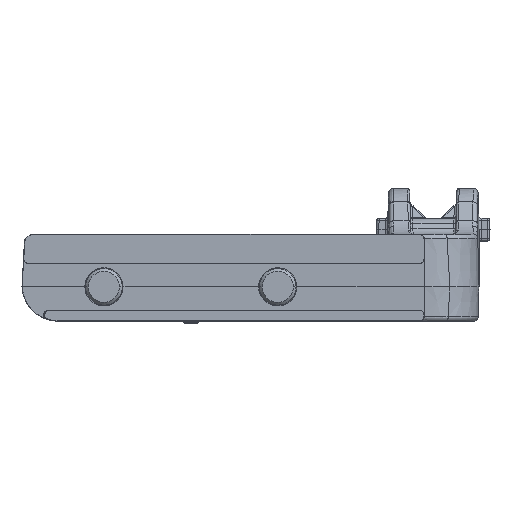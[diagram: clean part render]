
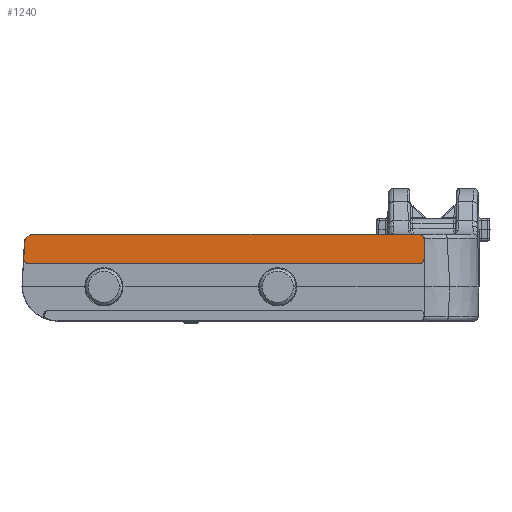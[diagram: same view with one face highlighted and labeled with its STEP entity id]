
A CAD part, front view. The second image highlights one B-rep face of the part: STEP entity #1240.
In plain terms, the highlighted planar face has unit normal (0, -1, 0).
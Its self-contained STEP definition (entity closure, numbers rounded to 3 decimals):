
#45 = AXIS2_PLACEMENT_3D ( 'NONE', #19169, #19170, #19171 ) ;
#183 = AXIS2_PLACEMENT_3D ( 'NONE', #19965, #19971, #19972 ) ;
#436 = EDGE_CURVE ( 'NONE', #9960, #3162, #25402, .T. ) ;
#440 = EDGE_CURVE ( 'NONE', #3162, #3159, #25408, .T. ) ;
#1240 = ADVANCED_FACE ( 'NONE', ( #17460 ), #19969, .F. ) ;
#2119 = LINE ( 'NONE', #5395, #2128 ) ;
#2128 = VECTOR ( 'NONE', #5402, 1000. ) ;
#3159 = VERTEX_POINT ( 'NONE', #15903 ) ;
#3162 = VERTEX_POINT ( 'NONE', #15906 ) ;
#3441 = EDGE_CURVE ( 'NONE', #9952, #10024, #15444, .T. ) ;
#3442 = EDGE_CURVE ( 'NONE', #3159, #10026, #15449, .T. ) ;
#4215 = CARTESIAN_POINT ( 'NONE',  ( 15.987, 0., -1.038 ) ) ;
#4216 = CARTESIAN_POINT ( 'NONE',  ( 15.987, 0., -0.745 ) ) ;
#4221 = CARTESIAN_POINT ( 'NONE',  ( 15.78, 0., -0.538 ) ) ;
#4222 = CARTESIAN_POINT ( 'NONE',  ( 15.488, 0., -0.538 ) ) ;
#5385 = CARTESIAN_POINT ( 'NONE',  ( -27.751, 0., -3.149 ) ) ;
#5386 = CARTESIAN_POINT ( 'NONE',  ( -27.767, 0., -3.454 ) ) ;
#5391 = CARTESIAN_POINT ( 'NONE',  ( -27.557, 0., -3.675 ) ) ;
#5392 = CARTESIAN_POINT ( 'NONE',  ( -27.252, 0., -3.675 ) ) ;
#5395 = CARTESIAN_POINT ( 'NONE',  ( -38.703, 0., -3.675 ) ) ;
#5402 = DIRECTION ( 'NONE',  ( 1., 0., 0. ) ) ;
#5407 = CARTESIAN_POINT ( 'NONE',  ( 15.78, 0., -3.675 ) ) ;
#5408 = CARTESIAN_POINT ( 'NONE',  ( 15.488, 0., -3.675 ) ) ;
#5413 = CARTESIAN_POINT ( 'NONE',  ( 15.987, 0., -3.468 ) ) ;
#5414 = CARTESIAN_POINT ( 'NONE',  ( 15.987, 0., -3.175 ) ) ;
#5685 =( BOUNDED_CURVE ( )  B_SPLINE_CURVE ( 3, ( #4215, #4216, #4221, #4222 ),
 .UNSPECIFIED., .F., .F. ) 
 B_SPLINE_CURVE_WITH_KNOTS ( ( 4, 4 ),
 ( 5.498, 7.068 ),
 .UNSPECIFIED. ) 
 CURVE ( )  GEOMETRIC_REPRESENTATION_ITEM ( )  RATIONAL_B_SPLINE_CURVE ( ( 1., 0.805, 0.805, 1. ) ) 
 REPRESENTATION_ITEM ( '' )  );
#9167 = EDGE_LOOP ( 'NONE', ( #9552, #9553, #9554, #9555, #9556, #9557, #9558, #9559 ) ) ;
#9552 = ORIENTED_EDGE ( 'NONE', *, *, #3441, .T. ) ;
#9553 = ORIENTED_EDGE ( 'NONE', *, *, #21014, .T. ) ;
#9554 = ORIENTED_EDGE ( 'NONE', *, *, #3442, .F. ) ;
#9555 = ORIENTED_EDGE ( 'NONE', *, *, #440, .F. ) ;
#9556 = ORIENTED_EDGE ( 'NONE', *, *, #436, .F. ) ;
#9557 = ORIENTED_EDGE ( 'NONE', *, *, #20432, .T. ) ;
#9558 = ORIENTED_EDGE ( 'NONE', *, *, #20436, .T. ) ;
#9559 = ORIENTED_EDGE ( 'NONE', *, *, #20441, .T. ) ;
#9952 = VERTEX_POINT ( 'NONE', #16832 ) ;
#9957 = VERTEX_POINT ( 'NONE', #16835 ) ;
#9960 = VERTEX_POINT ( 'NONE', #16838 ) ;
#9972 = VERTEX_POINT ( 'NONE', #16850 ) ;
#10024 = VERTEX_POINT ( 'NONE', #16902 ) ;
#10026 = VERTEX_POINT ( 'NONE', #16904 ) ;
#12926 =( BOUNDED_CURVE ( )  B_SPLINE_CURVE ( 3, ( #5385, #5386, #5391, #5392 ),
 .UNSPECIFIED., .F., .F. ) 
 B_SPLINE_CURVE_WITH_KNOTS ( ( 4, 4 ),
 ( 2.33, 3.953 ),
 .UNSPECIFIED. ) 
 CURVE ( )  GEOMETRIC_REPRESENTATION_ITEM ( )  RATIONAL_B_SPLINE_CURVE ( ( 1., 0.792, 0.792, 1. ) ) 
 REPRESENTATION_ITEM ( '' )  );
#12929 =( BOUNDED_CURVE ( )  B_SPLINE_CURVE ( 3, ( #5408, #5407, #5413, #5414 ),
 .UNSPECIFIED., .F., .F. ) 
 B_SPLINE_CURVE_WITH_KNOTS ( ( 4, 4 ),
 ( 5.498, 7.068 ),
 .UNSPECIFIED. ) 
 CURVE ( )  GEOMETRIC_REPRESENTATION_ITEM ( )  RATIONAL_B_SPLINE_CURVE ( ( 1., 0.805, 0.805, 1. ) ) 
 REPRESENTATION_ITEM ( '' )  );
#15444 = LINE ( 'NONE', #16716, #15448 ) ;
#15448 = VECTOR ( 'NONE', #16720, 1000. ) ;
#15449 = LINE ( 'NONE', #16700, #15451 ) ;
#15451 = VECTOR ( 'NONE', #16721, 1000. ) ;
#15903 = CARTESIAN_POINT ( 'NONE',  ( -26.701, 0., -0.538 ) ) ;
#15906 = CARTESIAN_POINT ( 'NONE',  ( -27.662, 0., -1.45 ) ) ;
#16700 = CARTESIAN_POINT ( 'NONE',  ( 0., 0., -0.538 ) ) ;
#16716 = CARTESIAN_POINT ( 'NONE',  ( 15.987, 0., -1.5 ) ) ;
#16720 = DIRECTION ( 'NONE',  ( 0., 0., 1. ) ) ;
#16721 = DIRECTION ( 'NONE',  ( 1., 0., 0. ) ) ;
#16832 = CARTESIAN_POINT ( 'NONE',  ( 15.987, 0., -3.175 ) ) ;
#16835 = CARTESIAN_POINT ( 'NONE',  ( -27.252, 0., -3.675 ) ) ;
#16838 = CARTESIAN_POINT ( 'NONE',  ( -27.751, 0., -3.149 ) ) ;
#16850 = CARTESIAN_POINT ( 'NONE',  ( 15.488, 0., -3.675 ) ) ;
#16902 = CARTESIAN_POINT ( 'NONE',  ( 15.987, 0., -1.038 ) ) ;
#16904 = CARTESIAN_POINT ( 'NONE',  ( 15.488, 0., -0.538 ) ) ;
#17460 = FACE_OUTER_BOUND ( 'NONE', #9167, .T. ) ;
#19157 = CARTESIAN_POINT ( 'NONE',  ( -27.511, 0., 1.442 ) ) ;
#19158 = DIRECTION ( 'NONE',  ( 0.052, 0., 0.999 ) ) ;
#19169 = CARTESIAN_POINT ( 'NONE',  ( -26.701, 0., -1.5 ) ) ;
#19170 = DIRECTION ( 'NONE',  ( 0., 1., 0. ) ) ;
#19171 = DIRECTION ( 'NONE',  ( 0., 0., 1. ) ) ;
#19965 = CARTESIAN_POINT ( 'NONE',  ( -26.701, 0., -1.5 ) ) ;
#19969 = PLANE ( 'NONE',  #183 ) ;
#19971 = DIRECTION ( 'NONE',  ( 0., 1., 0. ) ) ;
#19972 = DIRECTION ( 'NONE',  ( 0., 0., 1. ) ) ;
#20432 = EDGE_CURVE ( 'NONE', #9960, #9957, #12926, .T. ) ;
#20436 = EDGE_CURVE ( 'NONE', #9957, #9972, #2119, .T. ) ;
#20441 = EDGE_CURVE ( 'NONE', #9972, #9952, #12929, .T. ) ;
#21014 = EDGE_CURVE ( 'NONE', #10024, #10026, #5685, .T. ) ;
#25402 = LINE ( 'NONE', #19157, #25405 ) ;
#25405 = VECTOR ( 'NONE', #19158, 1000. ) ;
#25408 = CIRCLE ( 'NONE', #45, 0.962 ) ;
